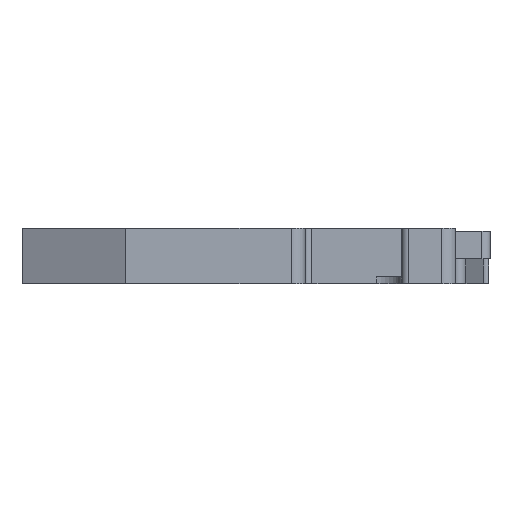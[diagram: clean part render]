
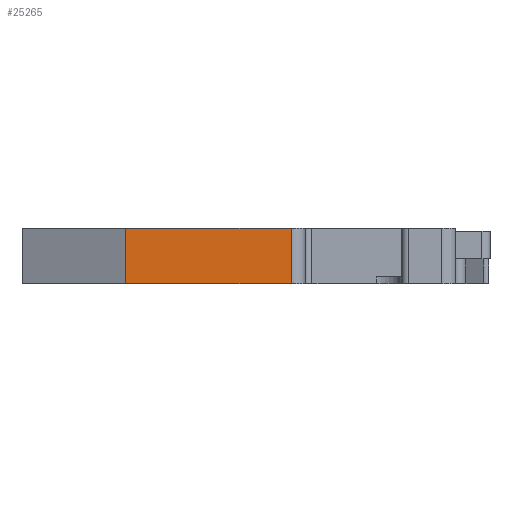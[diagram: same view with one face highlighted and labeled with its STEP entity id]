
A CAD part, left-side view. The second image highlights one B-rep face of the part: STEP entity #25265.
In plain terms, the highlighted planar face has unit normal (-1, 0, 0).
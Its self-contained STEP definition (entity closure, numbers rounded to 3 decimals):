
#260 = FACE_OUTER_BOUND ( 'NONE', #22709, .T. ) ;
#2002 = DIRECTION ( 'NONE',  ( 1., 0., 0. ) ) ;
#3718 = CARTESIAN_POINT ( 'NONE',  ( -26.024, 1.284, 49.575 ) ) ;
#3779 = CARTESIAN_POINT ( 'NONE',  ( -26.024, 13.284, 49.575 ) ) ;
#4019 = PLANE ( 'NONE',  #6873 ) ;
#4281 = DIRECTION ( 'NONE',  ( 0., 0., -1. ) ) ;
#4360 = DIRECTION ( 'NONE',  ( 0., -1., 0. ) ) ;
#4973 = VERTEX_POINT ( 'NONE', #3779 ) ;
#5468 = ORIENTED_EDGE ( 'NONE', *, *, #17427, .T. ) ;
#6405 = VECTOR ( 'NONE', #4281, 1000. ) ;
#6728 = LINE ( 'NONE', #15054, #6405 ) ;
#6873 = AXIS2_PLACEMENT_3D ( 'NONE', #16547, #2002, #25044 ) ;
#8112 = ORIENTED_EDGE ( 'NONE', *, *, #26406, .T. ) ;
#10782 = CARTESIAN_POINT ( 'NONE',  ( -26.024, 13.284, 49.575 ) ) ;
#11836 = ORIENTED_EDGE ( 'NONE', *, *, #23142, .F. ) ;
#11990 = DIRECTION ( 'NONE',  ( 0., 0., -1. ) ) ;
#12168 = LINE ( 'NONE', #21039, #20399 ) ;
#12242 = VERTEX_POINT ( 'NONE', #3718 ) ;
#12895 = LINE ( 'NONE', #24612, #14851 ) ;
#13817 = ORIENTED_EDGE ( 'NONE', *, *, #20304, .F. ) ;
#14431 = VERTEX_POINT ( 'NONE', #23257 ) ;
#14851 = VECTOR ( 'NONE', #11990, 1000. ) ;
#15054 = CARTESIAN_POINT ( 'NONE',  ( -26.024, 13.284, 53.575 ) ) ;
#16547 = CARTESIAN_POINT ( 'NONE',  ( -26.024, 13.284, 53.575 ) ) ;
#17427 = EDGE_CURVE ( 'NONE', #14431, #4973, #6728, .T. ) ;
#20304 = EDGE_CURVE ( 'NONE', #14431, #21414, #12168, .T. ) ;
#20399 = VECTOR ( 'NONE', #4360, 1000. ) ;
#21039 = CARTESIAN_POINT ( 'NONE',  ( -26.024, 13.284, 53.575 ) ) ;
#21414 = VERTEX_POINT ( 'NONE', #27090 ) ;
#21459 = DIRECTION ( 'NONE',  ( 0., -1., 0. ) ) ;
#21574 = VECTOR ( 'NONE', #21459, 1000. ) ;
#22709 = EDGE_LOOP ( 'NONE', ( #8112, #11836, #13817, #5468 ) ) ;
#23142 = EDGE_CURVE ( 'NONE', #21414, #12242, #12895, .T. ) ;
#23257 = CARTESIAN_POINT ( 'NONE',  ( -26.024, 13.284, 53.575 ) ) ;
#24612 = CARTESIAN_POINT ( 'NONE',  ( -26.024, 1.284, 53.575 ) ) ;
#25044 = DIRECTION ( 'NONE',  ( 0., 1., 0. ) ) ;
#25265 = ADVANCED_FACE ( 'NONE', ( #260 ), #4019, .F. ) ;
#26406 = EDGE_CURVE ( 'NONE', #4973, #12242, #26859, .T. ) ;
#26859 = LINE ( 'NONE', #10782, #21574 ) ;
#27090 = CARTESIAN_POINT ( 'NONE',  ( -26.024, 1.284, 53.575 ) ) ;
